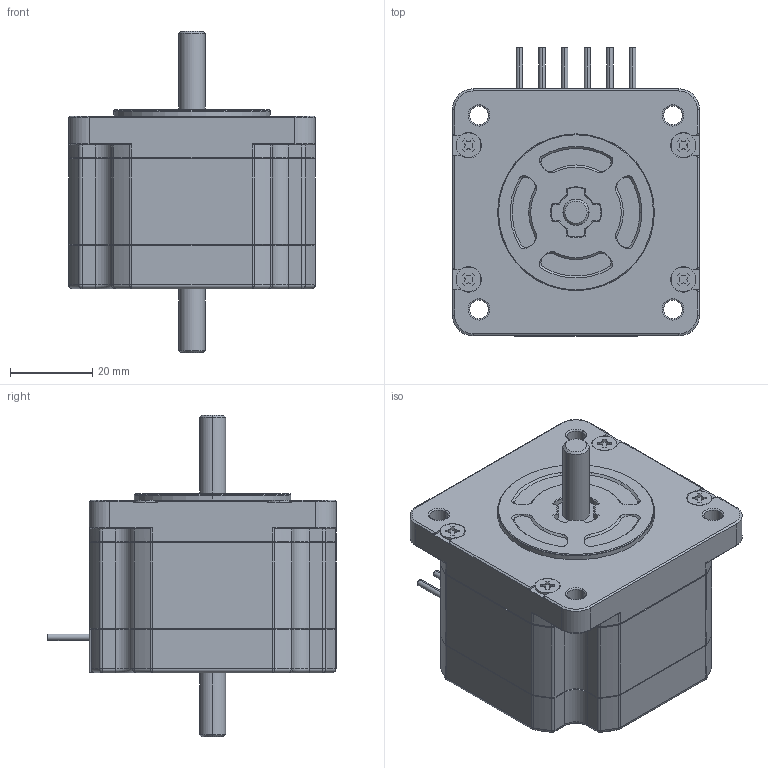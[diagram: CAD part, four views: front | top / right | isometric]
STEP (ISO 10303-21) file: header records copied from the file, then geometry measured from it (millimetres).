
FILE_DESCRIPTION (( 'STEP AP203' ), '1' );
FILE_NAME ('SH1601-0410.STEP', '2015-05-27T05:10:50', ( '' ), ( '' ), 'SwSTEP 2.0', 'SolidWorks 2014', '' );
FILE_SCHEMA (( 'CONFIG_CONTROL_DESIGN' ));
Length unit declared in the file: millimetre
Products named in the file (1): SH1601-0410
Bounding box: 60 x 70 x 78.1 mm (x, y, z)
Volume: 136324.7 mm3; surface area: 18184.2 mm2
Topology: 1 solids, 1 shells, 620 faces, 1543 edges, 948 vertices
Faces by surface type: plane 225, cylinder 204, cone 114, bspline 33, torus 30, sphere 14
Entity records: 19480 total; most frequent: CARTESIAN_POINT 4808, DIRECTION 3077, ORIENTED_EDGE 3074, EDGE_CURVE 1537, AXIS2_PLACEMENT_3D 1162, VERTEX_POINT 948, VECTOR 753, LINE 753
